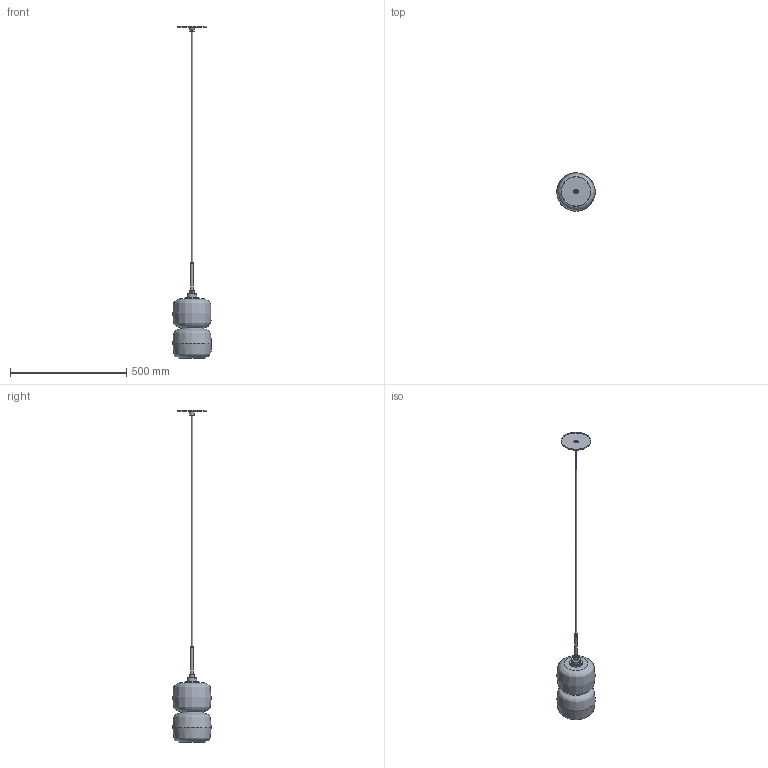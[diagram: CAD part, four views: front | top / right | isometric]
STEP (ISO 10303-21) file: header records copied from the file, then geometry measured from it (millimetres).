
FILE_DESCRIPTION(/* description */ (''),/* implementation_level */ '2;1');
FILE_NAME(/* name */ 'C:/Users/zach/Niche/Product Development - Documents/CAD Models/Pendants/Pinch Series/Pinch/Glass - Luxe Hardware/Niche - Pinch Pendant.step',/* time_stamp */ '2022-09-27T15:48:35-04:00',/* author */ (''),/* organization */ (''),/* preprocessor_version */ 'ST-DEVELOPER v19',/* originating_system */ 'Autodesk Translation Framework v11.7.0.108',/* authorisation */ '');
FILE_SCHEMA (('AUTOMOTIVE_DESIGN { 1 0 10303 214 3 1 1 }'));
Length unit declared in the file: inch
Products named in the file (1): Pinch
Bounding box: 165 x 165.03 x 1426.19 mm (x, y, z)
Volume: 689022.8 mm3; surface area: 423645.9 mm2
Topology: 11 solids, 11 shells, 193 faces, 490 edges, 323 vertices
Faces by surface type: cylinder 124, plane 50, bspline 16, torus 1, cone 1, sphere 1
Full cylindrical faces by diameter (mm): 4.529 x1, 5.08 x1, 6.096 x1, 6.35 x1, 6.5 x1, 7.62 x1, 7.744 x7, 8.036 x15, 8.852 x1, 8.884 x8, 9.035 x1, 9.146 x11, 10.16 x1, 12.7 x2, 19.05 x1, 19.2 x1, 25.4 x1, 26.022 x1, 29.21 x1, 34.97 x1, 35.052 x9, 37.85 x8, 39 x1, 39.35 x1, 41.035 x1, 41.2 x1, 41.884 x1, 44 x1, 55 x2, 125.476 x1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
Entity records: 15286 total; most frequent: CARTESIAN_POINT 10960, ORIENTED_EDGE 978, DIRECTION 712, EDGE_CURVE 489, VERTEX_POINT 323, AXIS2_PLACEMENT_3D 271, EDGE_LOOP 222, B_SPLINE_CURVE_WITH_KNOTS 221
